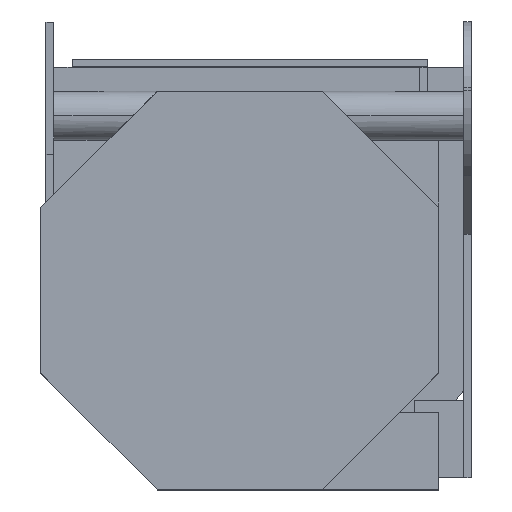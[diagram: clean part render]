
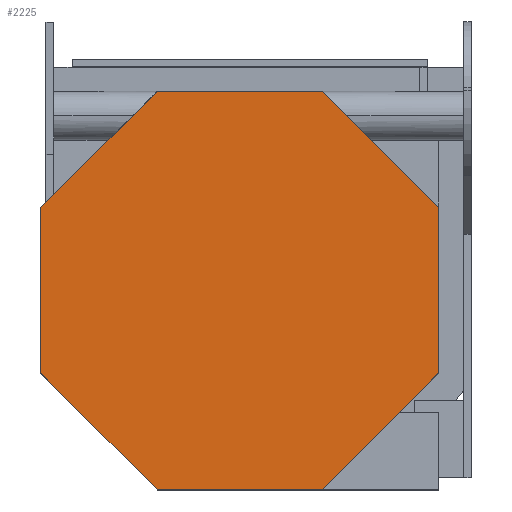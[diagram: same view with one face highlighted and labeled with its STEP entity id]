
A CAD part, top view. The second image highlights one B-rep face of the part: STEP entity #2225.
In plain terms, the highlighted planar face has unit normal (0, 0, 1).
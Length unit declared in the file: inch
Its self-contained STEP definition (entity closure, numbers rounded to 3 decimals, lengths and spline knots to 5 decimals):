
#443=DIRECTION('',(0.707,0.707,0.));
#444=VECTOR('',#443,0.63145);
#445=CARTESIAN_POINT('',(0.2774,-0.7622,0.784));
#446=LINE('',#445,#444);
#447=DIRECTION('',(1.,0.,0.));
#448=VECTOR('',#447,0.6314);
#449=CARTESIAN_POINT('',(-0.354,-0.7622,0.784));
#450=LINE('',#449,#448);
#451=DIRECTION('',(0.707,-0.707,0.));
#452=VECTOR('',#451,0.63145);
#453=CARTESIAN_POINT('',(-0.8005,-0.3157,0.784));
#454=LINE('',#453,#452);
#455=DIRECTION('',(0.,-1.,0.));
#456=VECTOR('',#455,0.6314);
#457=CARTESIAN_POINT('',(-0.8005,0.3157,0.784));
#458=LINE('',#457,#456);
#459=DIRECTION('',(-0.707,-0.707,0.));
#460=VECTOR('',#459,0.63145);
#461=CARTESIAN_POINT('',(-0.354,0.7622,0.784));
#462=LINE('',#461,#460);
#463=DIRECTION('',(-1.,0.,0.));
#464=VECTOR('',#463,0.6314);
#465=CARTESIAN_POINT('',(0.2774,0.7622,0.784));
#466=LINE('',#465,#464);
#467=DIRECTION('',(-0.707,0.707,0.));
#468=VECTOR('',#467,0.63145);
#469=CARTESIAN_POINT('',(0.7239,0.3157,0.784));
#470=LINE('',#469,#468);
#471=DIRECTION('',(0.,1.,0.));
#472=VECTOR('',#471,0.6314);
#473=CARTESIAN_POINT('',(0.7239,-0.3157,0.784));
#474=LINE('',#473,#472);
#1311=CARTESIAN_POINT('',(0.2774,-0.7622,0.784));
#1312=CARTESIAN_POINT('',(0.7239,-0.3157,0.784));
#1313=VERTEX_POINT('',#1311);
#1314=VERTEX_POINT('',#1312);
#1315=CARTESIAN_POINT('',(0.7239,0.3157,0.784));
#1316=VERTEX_POINT('',#1315);
#1317=CARTESIAN_POINT('',(0.2774,0.7622,0.784));
#1318=VERTEX_POINT('',#1317);
#1319=CARTESIAN_POINT('',(-0.354,0.7622,0.784));
#1320=VERTEX_POINT('',#1319);
#1321=CARTESIAN_POINT('',(-0.8005,0.3157,0.784));
#1322=VERTEX_POINT('',#1321);
#1323=CARTESIAN_POINT('',(-0.8005,-0.3157,0.784));
#1324=VERTEX_POINT('',#1323);
#1325=CARTESIAN_POINT('',(-0.354,-0.7622,0.784));
#1326=VERTEX_POINT('',#1325);
#2205=CARTESIAN_POINT('',(0.,0.,0.784));
#2206=DIRECTION('',(0.,0.,1.));
#2207=DIRECTION('',(0.,-1.,0.));
#2208=AXIS2_PLACEMENT_3D('',#2205,#2206,#2207);
#2209=PLANE('',#2208);
#2211=ORIENTED_EDGE('',*,*,#2210,.F.);
#2213=ORIENTED_EDGE('',*,*,#2212,.F.);
#2215=ORIENTED_EDGE('',*,*,#2214,.F.);
#2217=ORIENTED_EDGE('',*,*,#2216,.F.);
#2219=ORIENTED_EDGE('',*,*,#2218,.F.);
#2220=ORIENTED_EDGE('',*,*,#2195,.F.);
#2221=ORIENTED_EDGE('',*,*,#1848,.F.);
#2222=ORIENTED_EDGE('',*,*,#1810,.F.);
#2223=EDGE_LOOP('',(#2211,#2213,#2215,#2217,#2219,#2220,#2221,#2222));
#2224=FACE_OUTER_BOUND('',#2223,.F.);
#2225=ADVANCED_FACE('',(#2224),#2209,.T.);
#1810=EDGE_CURVE('',#1314,#1316,#474,.T.);
#1848=EDGE_CURVE('',#1316,#1318,#470,.T.);
#2195=EDGE_CURVE('',#1318,#1320,#466,.T.);
#2210=EDGE_CURVE('',#1313,#1314,#446,.T.);
#2212=EDGE_CURVE('',#1326,#1313,#450,.T.);
#2214=EDGE_CURVE('',#1324,#1326,#454,.T.);
#2216=EDGE_CURVE('',#1322,#1324,#458,.T.);
#2218=EDGE_CURVE('',#1320,#1322,#462,.T.);
